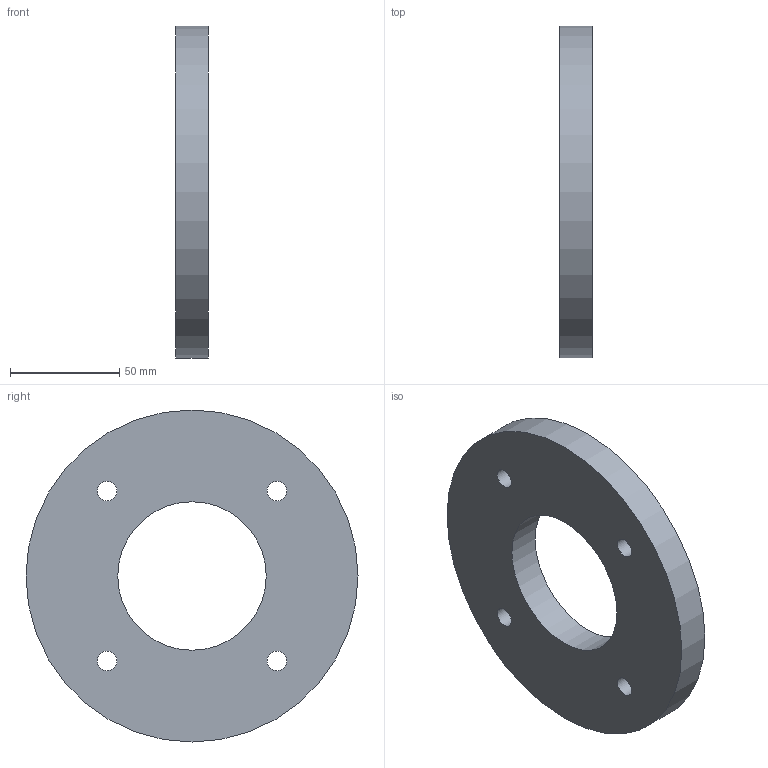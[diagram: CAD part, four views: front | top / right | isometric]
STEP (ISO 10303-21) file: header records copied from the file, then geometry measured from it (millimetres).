
FILE_DESCRIPTION(('Open CASCADE Model'),'2;1');
FILE_NAME('Open CASCADE Shape Model','2026-10-08T06:53:14',('Author'),( 'Open CASCADE'),'Open CASCADE STEP processor 7.8','Open CASCADE 7.8' ,'Unknown');
FILE_SCHEMA(('AUTOMOTIVE_DESIGN { 1 0 10303 214 1 1 1 1 }'));
Length unit declared in the file: millimetre
Products named in the file (1): Open CASCADE STEP translator 7.8 23
Bounding box: 15 x 152 x 152 mm (x, y, z)
Volume: 213895.3 mm3; surface area: 40583.1 mm2
Topology: 1 solids, 1 shells, 8 faces, 18 edges, 12 vertices
Faces by surface type: cylinder 6, plane 2
Full cylindrical faces by diameter (mm): 9 x4, 68 x1, 152 x1
Entity records: 522 total; most frequent: CARTESIAN_POINT 123, DIRECTION 76, ORIENTED_EDGE 36, PCURVE 36, DEFINITIONAL_REPRESENTATION 36, LINE 30, VECTOR 30, AXIS2_PLACEMENT_3D 21
